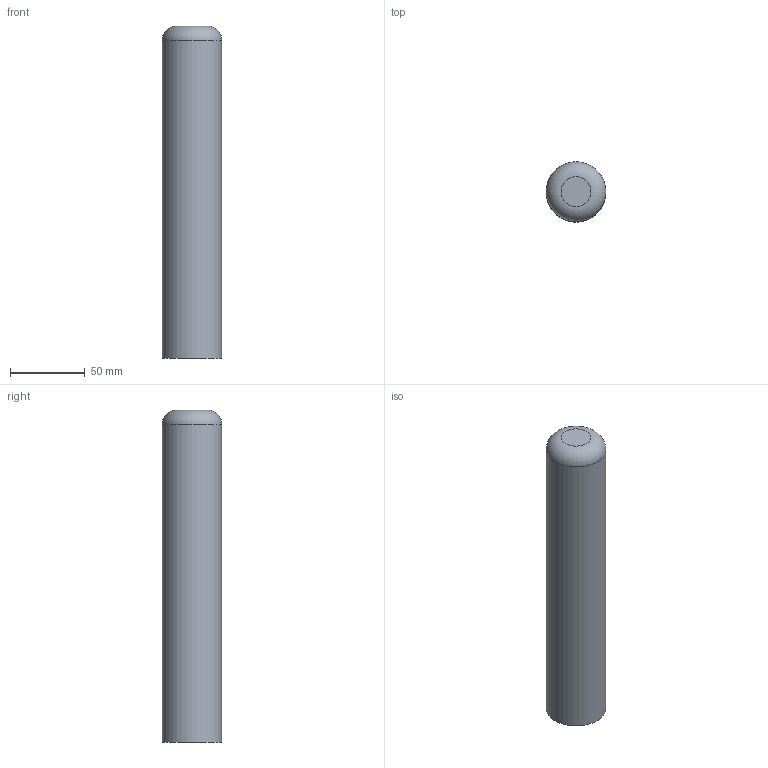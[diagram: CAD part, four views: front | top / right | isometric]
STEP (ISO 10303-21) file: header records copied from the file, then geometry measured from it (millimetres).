
FILE_DESCRIPTION(/* description */ ('STEP AP242 Edition 2','CAx-IF Rec.Pracs.---Representation and Presentation of Product Manufacturing Information (PMI)---4.0---2014-10-13','CAx-IF Rec.Pracs.---3D Tessellated Geometry---0.4---2014-09-14','2;1','CAx-IF Rec.Pracs.---User Defined Attributes---1.5---2016-08-15'),/* implementation_level */ '2;1');
FILE_NAME(/* name */ 'Assembly 1 - Part 2',/* time_stamp */ '2026-10-18T18:48:31Z',/* author */ (''),/* organization */ (''),/* preprocessor_version */ 'ST-DEVELOPER v20',/* originating_system */ 'ONSHAPE BY PTC INC, 1.222',/* authorisation */ ' ');
FILE_SCHEMA (('AP242_MANAGED_MODEL_BASED_3D_ENGINEERING_MIM_LF { 1 0 10303 442 3 1 4 }'));
Length unit declared in the file: metre
Products named in the file (1): Part 2
Bounding box: 40 x 40 x 222 mm (x, y, z)
Volume: 276577.8 mm3; surface area: 29826.8 mm2
Topology: 1 solids, 1 shells, 4 faces, 5 edges, 3 vertices
Faces by surface type: plane 2, cylinder 1, torus 1
Full cylindrical faces by diameter (mm): 40 x1
Entity records: 96 total; most frequent: DIRECTION 16, CARTESIAN_POINT 11, AXIS2_PLACEMENT_3D 8, ORIENTED_EDGE 6, EDGE_LOOP 6, FACE_BOUND 6, ADVANCED_FACE 4, EDGE_CURVE 3
